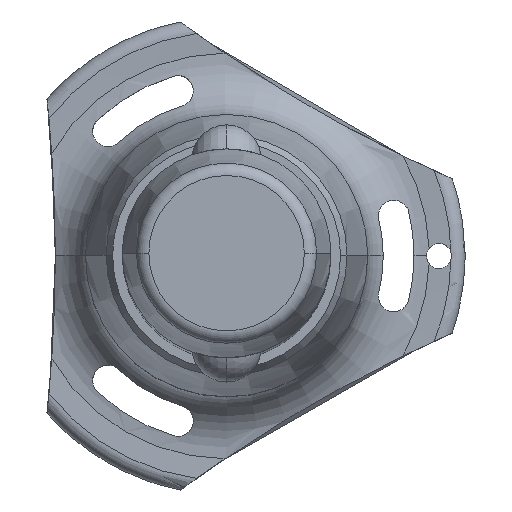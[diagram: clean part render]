
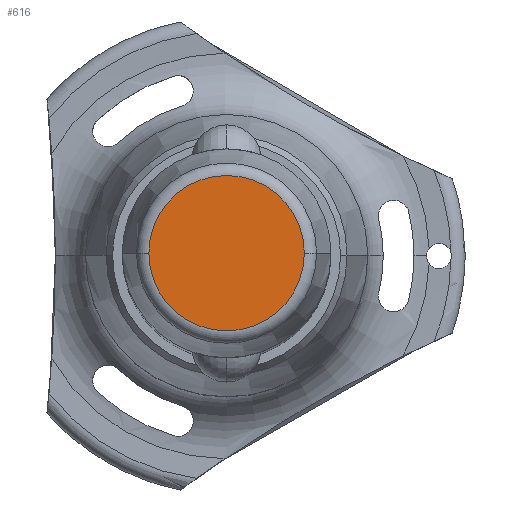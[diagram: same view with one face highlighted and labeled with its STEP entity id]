
A CAD part, top view. The second image highlights one B-rep face of the part: STEP entity #616.
In plain terms, the highlighted planar face has unit normal (0, 0, 1).
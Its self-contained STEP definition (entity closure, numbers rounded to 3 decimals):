
#117 = EDGE_LOOP ( 'NONE', ( #1131, #2788 ) ) ;
#203 = DIRECTION ( 'NONE',  ( 1., 0., 0. ) ) ;
#329 = EDGE_CURVE ( 'NONE', #1413, #2268, #2621, .T. ) ;
#350 = FACE_OUTER_BOUND ( 'NONE', #117, .T. ) ;
#358 = DIRECTION ( 'NONE',  ( 1., 0., 0. ) ) ;
#359 = AXIS2_PLACEMENT_3D ( 'NONE', #2853, #2242, #203 ) ;
#616 = ADVANCED_FACE ( 'NONE', ( #350 ), #2332, .T. ) ;
#1131 = ORIENTED_EDGE ( 'NONE', *, *, #329, .T. ) ;
#1241 = CARTESIAN_POINT ( 'NONE',  ( 0., 0., 22. ) ) ;
#1336 = AXIS2_PLACEMENT_3D ( 'NONE', #1241, #1904, #2787 ) ;
#1366 = CARTESIAN_POINT ( 'NONE',  ( -9.302, 0., 22. ) ) ;
#1384 = CARTESIAN_POINT ( 'NONE',  ( 0., 0., 22. ) ) ;
#1413 = VERTEX_POINT ( 'NONE', #2372 ) ;
#1568 = CIRCLE ( 'NONE', #2027, 9.302 ) ;
#1589 = EDGE_CURVE ( 'NONE', #2268, #1413, #1568, .T. ) ;
#1904 = DIRECTION ( 'NONE',  ( 0., 0., 1. ) ) ;
#2027 = AXIS2_PLACEMENT_3D ( 'NONE', #1384, #2258, #358 ) ;
#2242 = DIRECTION ( 'NONE',  ( 0., 0., 1. ) ) ;
#2258 = DIRECTION ( 'NONE',  ( 0., 0., 1. ) ) ;
#2268 = VERTEX_POINT ( 'NONE', #1366 ) ;
#2332 = PLANE ( 'NONE',  #1336 ) ;
#2372 = CARTESIAN_POINT ( 'NONE',  ( 9.302, 0., 22. ) ) ;
#2621 = CIRCLE ( 'NONE', #359, 9.302 ) ;
#2787 = DIRECTION ( 'NONE',  ( 1., 0., 0. ) ) ;
#2788 = ORIENTED_EDGE ( 'NONE', *, *, #1589, .T. ) ;
#2853 = CARTESIAN_POINT ( 'NONE',  ( 0., 0., 22. ) ) ;
